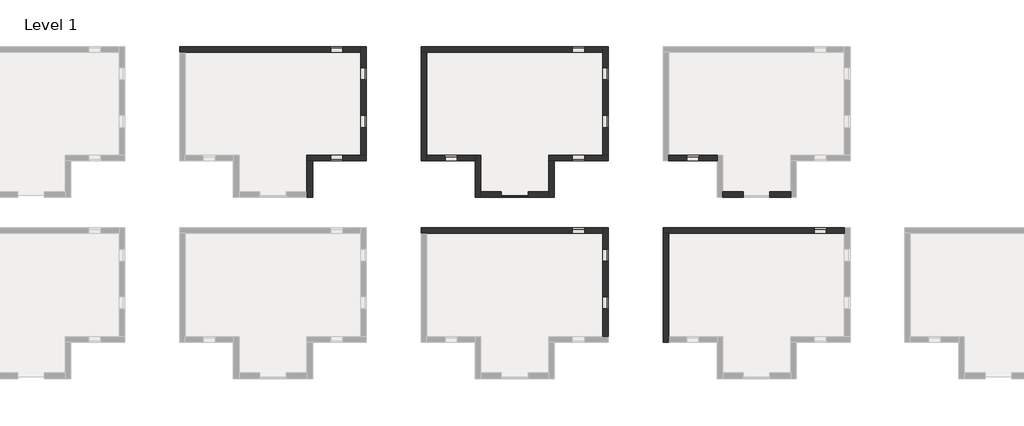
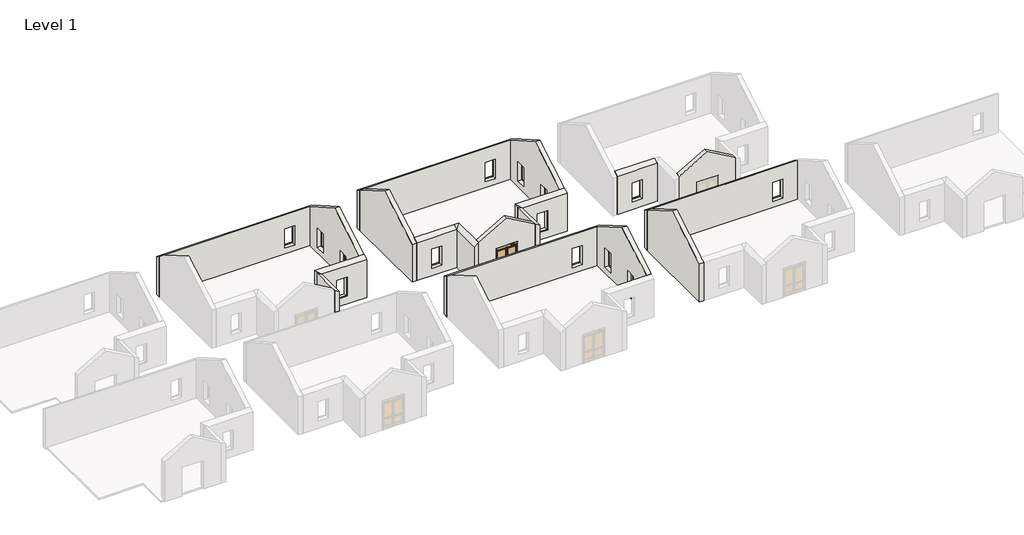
# One storey, part 3 of 4: 18 walls, 1 door.
"""IFC4 building model written with IfcOpenShell, lengths in millimetres."""

from ifc_helpers import new_model, si_unit, frame, origin, place, context, project, spatial, polyline, outline, extrude, faceted_brep, transform, mapped, element, save
from components import non_impact_rated_medium_stile_77e616cb

model = new_model("IFC4")

# Units and contexts
model_context = context("Model", 3, world=origin())
ifc_project = project(units=[si_unit("LENGTHUNIT", "METRE", prefix="MILLI")], contexts=[model_context])

# Site, building, storey
site = spatial("IfcSite", under=ifc_project)
building = spatial("IfcBuilding", under=site)
storey = spatial("IfcBuildingStorey", under=building, Name="Level 1", Elevation=0.0)

# Door
placement = place(None, origin())
non_impact_rated_medium_stile_shape = non_impact_rated_medium_stile_77e616cb(model_context)
element("IfcDoor", 1, ObjectType="Door_Sliding_AssaAbloy_Resilience-R128-FBO-Single : Non Impact Rated - Medium Stile", at=placement, inside=storey, context=model_context, shape_type="MappedRepresentation", body=[
    mapped(non_impact_rated_medium_stile_shape, transform((19060.8760445, 8608.1209288, 0.0), x_axis=(1.0, 0.0, 0.0), y_axis=(0.0, 1.0, 0.0), z_axis=(0.0, 0.0, 1.0))),
])

# Walls
element("IfcWall", 2, ObjectType="Exterior - Block on Mtl. Stud", at=placement, inside=storey, context=model_context, shape_type="Brep", body=[
    faceted_brep([(12963.7667412, 4515.4798849, 4265.5811238), (12963.7667412, 4515.4798849, 0.0), (13128.7667412, 4515.4798849, 0.0), (13128.7667412, 4515.4798849, 150.0), (13423.7667412, 4515.4798849, 150.0), (27963.7667412, 4515.4798849, 150.0), (27963.7667412, 4515.4798849, 4265.5811238), (13423.7667412, 4515.4798849, 4265.5811238), (25463.7667412, 4515.4798849, 2800.0), (26463.7667412, 4515.4798849, 2800.0), (26463.7667412, 4515.4798849, 770.0), (25463.7667412, 4515.4798849, 770.0), (27963.7667412, 4975.4798849, 0.0), (12963.7667412, 4975.4798849, 0.0), (12963.7667412, 4975.4798849, 4000.0), (27963.7667412, 4975.4798849, 4000.0), (26482.7661032, 4975.4798849, 2832.0), (25444.7673792, 4975.4798849, 2832.0), (25444.7673792, 4975.4798849, 800.0), (26482.7661032, 4975.4798849, 800.0), (27963.7667412, 4810.4798849, 0.0), (13128.7667412, 4810.4798849, 0.0), (27963.7667412, 4810.4798849, 150.0), (25463.7667412, 4855.4798849, 2800.0), (26463.7667412, 4855.4798849, 2800.0), (26463.7667412, 4875.4798849, 770.0), (25463.7667412, 4875.4798849, 770.0), (26463.7667412, 4855.4798849, 800.0), (26463.7667412, 4875.4798849, 800.0), (25463.7667412, 4875.4798849, 800.0), (25463.7667412, 4855.4798849, 800.0), (25431.7667412, 4855.4798849, 2832.0), (25431.7667412, 4868.4798849, 2832.0), (25444.7673792, 4868.4798849, 2832.0), (26482.7661032, 4868.4798849, 2832.0), (26495.7667412, 4868.4798849, 2832.0), (26495.7667412, 4855.4798849, 2832.0), (26495.7667412, 4855.4798849, 800.0), (26495.7667412, 4868.4798849, 800.0), (26482.7661032, 4868.4798849, 800.0), (25444.7673792, 4868.4798849, 800.0), (25431.7667412, 4868.4798849, 800.0), (25431.7667412, 4855.4798849, 800.0), (13128.7667412, 4810.4798849, 150.0)], [[[0, 1, 2, 3, 4, 5, 6, 7], [8, 9, 10, 11]], [[12, 13, 14, 15], [16, 17, 18, 19]], [[13, 12, 20, 21, 2, 1]], [[1, 0, 14, 13]], [[12, 15, 6, 5, 22, 20]], [[9, 8, 23, 24]], [[10, 25, 26, 11]], [[9, 24, 27, 28, 25, 10]], [[26, 25, 28, 29]], [[23, 8, 11, 26, 29, 30]], [[31, 32, 33, 17, 16, 34, 35, 36]], [[28, 27, 37, 38, 39, 19, 18, 40, 41, 42, 30, 29]], [[24, 23, 30, 42, 31, 36, 37, 27]], [[36, 35, 38, 37]], [[32, 31, 42, 41]], [[35, 34, 39, 38]], [[34, 16, 19, 39]], [[17, 33, 40, 18]], [[33, 32, 41, 40]], [[3, 43, 22, 5, 4]], [[21, 43, 3, 2]], [[43, 21, 20, 22]], [[0, 7, 6, 15, 14]]]),
])
element("IfcWall", 3, ObjectType="Exterior - Block on Mtl. Stud", at=placement, inside=storey, context=model_context, shape_type="Brep", body=[
    faceted_brep([(27963.7667412, 4975.4798849, 4000.0), (27963.7667412, 4975.4798849, 0.0), (27963.7667412, 4810.4798849, 0.0), (27963.7667412, 4810.4798849, 150.0), (27963.7667412, 4515.4798849, 150.0), (27963.7667412, -4024.5201151, 150.0), (27963.7667412, -4024.5201151, 4265.5811238), (27963.7667412, 245.4798849, 6730.8667733), (27963.7667412, 4515.4798849, 4265.5811238), (27963.7667412, -724.5201151, 2800.0), (27963.7667412, -1724.5201151, 2800.0), (27963.7667412, -1724.5201151, 770.0), (27963.7667412, -724.5201151, 770.0), (27963.7667412, 3215.4798849, 2800.0), (27963.7667412, 2215.4798849, 2800.0), (27963.7667412, 2215.4798849, 770.0), (27963.7667412, 3215.4798849, 770.0), (28423.7667412, -4024.5201151, 0.0), (28423.7667412, 4975.4798849, 0.0), (28423.7667412, 4975.4798849, 4000.0), (28423.7667412, 245.4798849, 6730.8667733), (28423.7667412, -4024.5201151, 4265.5811238), (28423.7667412, -1743.5194771, 2832.0), (28423.7667412, -705.5207531, 2832.0), (28423.7667412, -705.5207531, 800.0), (28423.7667412, -1743.5194771, 800.0), (28423.7667412, 2196.4805229, 2832.0), (28423.7667412, 3234.4792469, 2832.0), (28423.7667412, 3234.4792469, 800.0), (28423.7667412, 2196.4805229, 800.0), (28258.7667412, -4024.5201151, 0.0), (28258.7667412, 4810.4798849, 0.0), (28258.7667412, -4024.5201151, 150.0), (28303.7667412, -724.5201151, 2800.0), (28303.7667412, -1724.5201151, 2800.0), (28323.7667412, -1724.5201151, 770.0), (28323.7667412, -724.5201151, 770.0), (28303.7667412, -1724.5201151, 800.0), (28323.7667412, -1724.5201151, 800.0), (28323.7667412, -724.5201151, 800.0), (28303.7667412, -724.5201151, 800.0), (28303.7667412, -692.5201151, 2832.0), (28316.7667412, -692.5201151, 2832.0), (28316.7667412, -705.5207531, 2832.0), (28316.7667412, -1743.5194771, 2832.0), (28316.7667412, -1756.5201151, 2832.0), (28303.7667412, -1756.5201151, 2832.0), (28303.7667412, -1756.5201151, 800.0), (28316.7667412, -1756.5201151, 800.0), (28316.7667412, -1743.5194771, 800.0), (28316.7667412, -705.5207531, 800.0), (28316.7667412, -692.5201151, 800.0), (28303.7667412, -692.5201151, 800.0), (28303.7667412, 3215.4798849, 2800.0), (28303.7667412, 2215.4798849, 2800.0), (28323.7667412, 2215.4798849, 770.0), (28323.7667412, 3215.4798849, 770.0), (28303.7667412, 2215.4798849, 800.0), (28323.7667412, 2215.4798849, 800.0), (28323.7667412, 3215.4798849, 800.0), (28303.7667412, 3215.4798849, 800.0), (28303.7667412, 3247.4798849, 2832.0), (28316.7667412, 3247.4798849, 2832.0), (28316.7667412, 3234.4792469, 2832.0), (28316.7667412, 2196.4805229, 2832.0), (28316.7667412, 2183.4798849, 2832.0), (28303.7667412, 2183.4798849, 2832.0), (28303.7667412, 2183.4798849, 800.0), (28316.7667412, 2183.4798849, 800.0), (28316.7667412, 2196.4805229, 800.0), (28316.7667412, 3234.4792469, 800.0), (28316.7667412, 3247.4798849, 800.0), (28303.7667412, 3247.4798849, 800.0), (28258.7667412, 4810.4798849, 150.0)], [[[0, 1, 2, 3, 4, 5, 6, 7, 8], [9, 10, 11, 12], [13, 14, 15, 16]], [[17, 18, 19, 20, 21], [22, 23, 24, 25], [26, 27, 28, 29]], [[18, 17, 30, 31, 2, 1]], [[1, 0, 19, 18]], [[17, 21, 6, 5, 32, 30]], [[10, 9, 33, 34]], [[11, 35, 36, 12]], [[10, 34, 37, 38, 35, 11]], [[36, 35, 38, 39]], [[33, 9, 12, 36, 39, 40]], [[41, 42, 43, 23, 22, 44, 45, 46]], [[38, 37, 47, 48, 49, 25, 24, 50, 51, 52, 40, 39]], [[34, 33, 40, 52, 41, 46, 47, 37]], [[46, 45, 48, 47]], [[42, 41, 52, 51]], [[45, 44, 49, 48]], [[44, 22, 25, 49]], [[23, 43, 50, 24]], [[43, 42, 51, 50]], [[14, 13, 53, 54]], [[15, 55, 56, 16]], [[14, 54, 57, 58, 55, 15]], [[56, 55, 58, 59]], [[53, 13, 16, 56, 59, 60]], [[61, 62, 63, 27, 26, 64, 65, 66]], [[58, 57, 67, 68, 69, 29, 28, 70, 71, 72, 60, 59]], [[54, 53, 60, 72, 61, 66, 67, 57]], [[66, 65, 68, 67]], [[62, 61, 72, 71]], [[65, 64, 69, 68]], [[64, 26, 29, 69]], [[27, 63, 70, 28]], [[63, 62, 71, 70]], [[73, 32, 5, 4, 3]], [[73, 31, 30, 32]], [[31, 73, 3, 2]], [[19, 0, 8, 7, 20]], [[6, 21, 20, 7]]]),
])
element("IfcWall", 4, ObjectType="Exterior - Block on Mtl. Stud", at=placement, inside=storey, context=model_context, shape_type="Brep", body=[
    faceted_brep([(32963.7667412, 4515.4798849, 4265.5811238), (32963.7667412, 4515.4798849, 0.0), (33128.7667412, 4515.4798849, 0.0), (33128.7667412, 4515.4798849, 150.0), (33423.7667412, 4515.4798849, 150.0), (47963.7667412, 4515.4798849, 150.0), (47963.7667412, 4515.4798849, 4265.5811238), (33423.7667412, 4515.4798849, 4265.5811238), (45463.7667412, 4515.4798849, 2800.0), (46463.7667412, 4515.4798849, 2800.0), (46463.7667412, 4515.4798849, 770.0), (45463.7667412, 4515.4798849, 770.0), (47963.7667412, 4975.4798849, 0.0), (32963.7667412, 4975.4798849, 0.0), (32963.7667412, 4975.4798849, 4000.0), (47963.7667412, 4975.4798849, 4000.0), (46482.7661032, 4975.4798849, 2832.0), (45444.7673792, 4975.4798849, 2832.0), (45444.7673792, 4975.4798849, 800.0), (46482.7661032, 4975.4798849, 800.0), (47963.7667412, 4810.4798849, 0.0), (33128.7667412, 4810.4798849, 0.0), (47963.7667412, 4810.4798849, 150.0), (45463.7667412, 4855.4798849, 2800.0), (46463.7667412, 4855.4798849, 2800.0), (46463.7667412, 4875.4798849, 770.0), (45463.7667412, 4875.4798849, 770.0), (46463.7667412, 4855.4798849, 800.0), (46463.7667412, 4875.4798849, 800.0), (45463.7667412, 4875.4798849, 800.0), (45463.7667412, 4855.4798849, 800.0), (45431.7667412, 4855.4798849, 2832.0), (45431.7667412, 4868.4798849, 2832.0), (45444.7673792, 4868.4798849, 2832.0), (46482.7661032, 4868.4798849, 2832.0), (46495.7667412, 4868.4798849, 2832.0), (46495.7667412, 4855.4798849, 2832.0), (46495.7667412, 4855.4798849, 800.0), (46495.7667412, 4868.4798849, 800.0), (46482.7661032, 4868.4798849, 800.0), (45444.7673792, 4868.4798849, 800.0), (45431.7667412, 4868.4798849, 800.0), (45431.7667412, 4855.4798849, 800.0), (33128.7667412, 4810.4798849, 150.0)], [[[0, 1, 2, 3, 4, 5, 6, 7], [8, 9, 10, 11]], [[12, 13, 14, 15], [16, 17, 18, 19]], [[13, 12, 20, 21, 2, 1]], [[1, 0, 14, 13]], [[12, 15, 6, 5, 22, 20]], [[9, 8, 23, 24]], [[10, 25, 26, 11]], [[9, 24, 27, 28, 25, 10]], [[26, 25, 28, 29]], [[23, 8, 11, 26, 29, 30]], [[31, 32, 33, 17, 16, 34, 35, 36]], [[28, 27, 37, 38, 39, 19, 18, 40, 41, 42, 30, 29]], [[24, 23, 30, 42, 31, 36, 37, 27]], [[36, 35, 38, 37]], [[32, 31, 42, 41]], [[35, 34, 39, 38]], [[34, 16, 19, 39]], [[17, 33, 40, 18]], [[33, 32, 41, 40]], [[3, 43, 22, 5, 4]], [[21, 43, 3, 2]], [[43, 21, 20, 22]], [[0, 7, 6, 15, 14]]]),
])
element("IfcWall", 5, ObjectType="Exterior - Block on Mtl. Stud", at=placement, inside=storey, context=model_context, shape_type="Brep", body=[
    faceted_brep([(33423.7667412, -4484.5201151, 4000.0), (33423.7667412, -4484.5201151, 0.0), (33423.7667412, -4319.5201151, 0.0), (33423.7667412, -4319.5201151, 150.0), (33423.7667412, 4515.4798849, 150.0), (33423.7667412, 4515.4798849, 4265.5811238), (33423.7667412, 245.4798849, 6730.8667733), (33423.7667412, -4024.5201151, 4265.5811238), (32963.7667412, 4515.4798849, 0.0), (32963.7667412, -4484.5201151, 0.0), (32963.7667412, -4484.5201151, 4000.0), (32963.7667412, 245.4798849, 6730.8667733), (32963.7667412, 4515.4798849, 4265.5811238), (33128.7667412, 4515.4798849, 0.0), (33128.7667412, -4319.5201151, 0.0), (33128.7667412, 4515.4798849, 150.0), (33128.7667412, -4319.5201151, 150.0)], [[[0, 1, 2, 3, 4, 5, 6, 7]], [[8, 9, 10, 11, 12]], [[9, 8, 13, 14, 2, 1]], [[1, 0, 10, 9]], [[8, 12, 5, 4, 15, 13]], [[3, 16, 15, 4]], [[16, 14, 13, 15]], [[14, 16, 3, 2]], [[10, 0, 7, 6, 11]], [[5, 12, 11, 6]]]),
])
element("IfcWall", 6, ObjectType="Exterior - Block on Mtl. Stud", at=placement, inside=storey, context=model_context, shape_type="Brep", body=[
    faceted_brep([(-7036.2332588, 19515.4798849, 4265.5811238), (-7036.2332588, 19515.4798849, 0.0), (-6871.2332588, 19515.4798849, 0.0), (-6871.2332588, 19515.4798849, 150.0), (-6576.2332588, 19515.4798849, 150.0), (7963.7667412, 19515.4798849, 150.0), (7963.7667412, 19515.4798849, 4265.5811238), (-6576.2332588, 19515.4798849, 4265.5811238), (5463.7667412, 19515.4798849, 2800.0), (6463.7667412, 19515.4798849, 2800.0), (6463.7667412, 19515.4798849, 770.0), (5463.7667412, 19515.4798849, 770.0), (7963.7667412, 19975.4798849, 0.0), (-7036.2332588, 19975.4798849, 0.0), (-7036.2332588, 19975.4798849, 4000.0), (7963.7667412, 19975.4798849, 4000.0), (6482.7661032, 19975.4798849, 2832.0), (5444.7673792, 19975.4798849, 2832.0), (5444.7673792, 19975.4798849, 800.0), (6482.7661032, 19975.4798849, 800.0), (7963.7667412, 19810.4798849, 0.0), (-6871.2332588, 19810.4798849, 0.0), (7963.7667412, 19810.4798849, 150.0), (5463.7667412, 19855.4798849, 2800.0), (6463.7667412, 19855.4798849, 2800.0), (6463.7667412, 19875.4798849, 770.0), (5463.7667412, 19875.4798849, 770.0), (6463.7667412, 19855.4798849, 800.0), (6463.7667412, 19875.4798849, 800.0), (5463.7667412, 19875.4798849, 800.0), (5463.7667412, 19855.4798849, 800.0), (5431.7667412, 19855.4798849, 2832.0), (5431.7667412, 19868.4798849, 2832.0), (5444.7673792, 19868.4798849, 2832.0), (6482.7661032, 19868.4798849, 2832.0), (6495.7667412, 19868.4798849, 2832.0), (6495.7667412, 19855.4798849, 2832.0), (6495.7667412, 19855.4798849, 800.0), (6495.7667412, 19868.4798849, 800.0), (6482.7661032, 19868.4798849, 800.0), (5444.7673792, 19868.4798849, 800.0), (5431.7667412, 19868.4798849, 800.0), (5431.7667412, 19855.4798849, 800.0), (-6871.2332588, 19810.4798849, 150.0)], [[[0, 1, 2, 3, 4, 5, 6, 7], [8, 9, 10, 11]], [[12, 13, 14, 15], [16, 17, 18, 19]], [[13, 12, 20, 21, 2, 1]], [[1, 0, 14, 13]], [[12, 15, 6, 5, 22, 20]], [[9, 8, 23, 24]], [[10, 25, 26, 11]], [[9, 24, 27, 28, 25, 10]], [[26, 25, 28, 29]], [[23, 8, 11, 26, 29, 30]], [[31, 32, 33, 17, 16, 34, 35, 36]], [[28, 27, 37, 38, 39, 19, 18, 40, 41, 42, 30, 29]], [[24, 23, 30, 42, 31, 36, 37, 27]], [[36, 35, 38, 37]], [[32, 31, 42, 41]], [[35, 34, 39, 38]], [[34, 16, 19, 39]], [[17, 33, 40, 18]], [[33, 32, 41, 40]], [[3, 43, 22, 5, 4]], [[21, 43, 3, 2]], [[43, 21, 20, 22]], [[0, 7, 6, 15, 14]]]),
])
element("IfcWall", 7, ObjectType="Exterior - Block on Mtl. Stud", at=placement, inside=storey, context=model_context, shape_type="Brep", body=[
    faceted_brep([(8423.7667412, 10975.4798849, 4265.5811238), (8423.7667412, 10975.4798849, 0.0), (8258.7667412, 10975.4798849, 0.0), (8258.7667412, 10975.4798849, 150.0), (7963.7667412, 10975.4798849, 150.0), (3503.7667412, 10975.4798849, 150.0), (3503.7667412, 10975.4798849, 4265.5811238), (7963.7667412, 10975.4798849, 4265.5811238), (6463.7667412, 10975.4798849, 2800.0), (5463.7667412, 10975.4798849, 2800.0), (5463.7667412, 10975.4798849, 770.0), (6463.7667412, 10975.4798849, 770.0), (8423.7667412, 10515.4798849, 0.0), (8423.7667412, 10515.4798849, 4000.0), (3963.7667412, 10515.4798849, 4000.0), (3503.7667412, 10515.4798849, 4265.5811238), (3503.7667412, 10515.4798849, 150.0), (3798.7667412, 10515.4798849, 150.0), (3798.7667412, 10515.4798849, 0.0), (3963.7667412, 10515.4798849, 0.0), (5444.7673792, 10515.4798849, 2832.0), (6482.7661032, 10515.4798849, 2832.0), (6482.7661032, 10515.4798849, 800.0), (5444.7673792, 10515.4798849, 800.0), (3798.7667412, 10680.4798849, 0.0), (8258.7667412, 10680.4798849, 0.0), (6463.7667412, 10635.4798849, 2800.0), (5463.7667412, 10635.4798849, 2800.0), (5463.7667412, 10615.4798849, 770.0), (6463.7667412, 10615.4798849, 770.0), (5463.7667412, 10635.4798849, 800.0), (5463.7667412, 10615.4798849, 800.0), (6463.7667412, 10615.4798849, 800.0), (6463.7667412, 10635.4798849, 800.0), (6495.7667412, 10635.4798849, 2832.0), (6495.7667412, 10622.4798849, 2832.0), (6482.7661032, 10622.4798849, 2832.0), (5444.7673792, 10622.4798849, 2832.0), (5431.7667412, 10622.4798849, 2832.0), (5431.7667412, 10635.4798849, 2832.0), (5431.7667412, 10635.4798849, 800.0), (5431.7667412, 10622.4798849, 800.0), (5444.7673792, 10622.4798849, 800.0), (6482.7661032, 10622.4798849, 800.0), (6495.7667412, 10622.4798849, 800.0), (6495.7667412, 10635.4798849, 800.0), (8258.7667412, 10680.4798849, 150.0), (3798.7667412, 10680.4798849, 150.0)], [[[0, 1, 2, 3, 4, 5, 6, 7], [8, 9, 10, 11]], [[12, 13, 14, 15, 16, 17, 18, 19], [20, 21, 22, 23]], [[1, 12, 19, 18, 24, 25, 2]], [[1, 0, 13, 12]], [[9, 8, 26, 27]], [[10, 28, 29, 11]], [[9, 27, 30, 31, 28, 10]], [[29, 28, 31, 32]], [[26, 8, 11, 29, 32, 33]], [[34, 35, 36, 21, 20, 37, 38, 39]], [[31, 30, 40, 41, 42, 23, 22, 43, 44, 45, 33, 32]], [[27, 26, 33, 45, 34, 39, 40, 30]], [[39, 38, 41, 40]], [[35, 34, 45, 44]], [[38, 37, 42, 41]], [[37, 20, 23, 42]], [[21, 36, 43, 22]], [[36, 35, 44, 43]], [[15, 6, 5, 16]], [[46, 47, 17, 16, 5, 4, 3]], [[25, 46, 3, 2]], [[47, 46, 25, 24]], [[47, 24, 18, 17]], [[13, 0, 7, 6, 14]], [[6, 15, 14]]]),
])
element("IfcWall", 8, ObjectType="Exterior - Block on Mtl. Stud", at=placement, inside=storey, context=model_context, shape_type="Brep", body=[
    faceted_brep([(7963.7667412, 19975.4798849, 4000.0), (7963.7667412, 19975.4798849, 0.0), (7963.7667412, 19810.4798849, 0.0), (7963.7667412, 19810.4798849, 150.0), (7963.7667412, 19515.4798849, 150.0), (7963.7667412, 10975.4798849, 150.0), (7963.7667412, 10975.4798849, 4265.5811238), (7963.7667412, 15245.4798849, 6730.8667733), (7963.7667412, 19515.4798849, 4265.5811238), (7963.7667412, 14275.4798849, 2800.0), (7963.7667412, 13275.4798849, 2800.0), (7963.7667412, 13275.4798849, 770.0), (7963.7667412, 14275.4798849, 770.0), (7963.7667412, 18215.4798849, 2800.0), (7963.7667412, 17215.4798849, 2800.0), (7963.7667412, 17215.4798849, 770.0), (7963.7667412, 18215.4798849, 770.0), (8423.7667412, 10975.4798849, 0.0), (8423.7667412, 19975.4798849, 0.0), (8423.7667412, 19975.4798849, 4000.0), (8423.7667412, 15245.4798849, 6730.8667733), (8423.7667412, 10975.4798849, 4265.5811238), (8423.7667412, 13256.4805229, 2832.0), (8423.7667412, 14294.4792469, 2832.0), (8423.7667412, 14294.4792469, 800.0), (8423.7667412, 13256.4805229, 800.0), (8423.7667412, 17196.4805229, 2832.0), (8423.7667412, 18234.4792469, 2832.0), (8423.7667412, 18234.4792469, 800.0), (8423.7667412, 17196.4805229, 800.0), (8258.7667412, 10975.4798849, 0.0), (8258.7667412, 19810.4798849, 0.0), (8258.7667412, 10975.4798849, 150.0), (8303.7667412, 14275.4798849, 2800.0), (8303.7667412, 13275.4798849, 2800.0), (8323.7667412, 13275.4798849, 770.0), (8323.7667412, 14275.4798849, 770.0), (8303.7667412, 13275.4798849, 800.0), (8323.7667412, 13275.4798849, 800.0), (8323.7667412, 14275.4798849, 800.0), (8303.7667412, 14275.4798849, 800.0), (8303.7667412, 14307.4798849, 2832.0), (8316.7667412, 14307.4798849, 2832.0), (8316.7667412, 14294.4792469, 2832.0), (8316.7667412, 13256.4805229, 2832.0), (8316.7667412, 13243.4798849, 2832.0), (8303.7667412, 13243.4798849, 2832.0), (8303.7667412, 13243.4798849, 800.0), (8316.7667412, 13243.4798849, 800.0), (8316.7667412, 13256.4805229, 800.0), (8316.7667412, 14294.4792469, 800.0), (8316.7667412, 14307.4798849, 800.0), (8303.7667412, 14307.4798849, 800.0), (8303.7667412, 18215.4798849, 2800.0), (8303.7667412, 17215.4798849, 2800.0), (8323.7667412, 17215.4798849, 770.0), (8323.7667412, 18215.4798849, 770.0), (8303.7667412, 17215.4798849, 800.0), (8323.7667412, 17215.4798849, 800.0), (8323.7667412, 18215.4798849, 800.0), (8303.7667412, 18215.4798849, 800.0), (8303.7667412, 18247.4798849, 2832.0), (8316.7667412, 18247.4798849, 2832.0), (8316.7667412, 18234.4792469, 2832.0), (8316.7667412, 17196.4805229, 2832.0), (8316.7667412, 17183.4798849, 2832.0), (8303.7667412, 17183.4798849, 2832.0), (8303.7667412, 17183.4798849, 800.0), (8316.7667412, 17183.4798849, 800.0), (8316.7667412, 17196.4805229, 800.0), (8316.7667412, 18234.4792469, 800.0), (8316.7667412, 18247.4798849, 800.0), (8303.7667412, 18247.4798849, 800.0), (8258.7667412, 19810.4798849, 150.0)], [[[0, 1, 2, 3, 4, 5, 6, 7, 8], [9, 10, 11, 12], [13, 14, 15, 16]], [[17, 18, 19, 20, 21], [22, 23, 24, 25], [26, 27, 28, 29]], [[18, 17, 30, 31, 2, 1]], [[1, 0, 19, 18]], [[17, 21, 6, 5, 32, 30]], [[10, 9, 33, 34]], [[11, 35, 36, 12]], [[10, 34, 37, 38, 35, 11]], [[36, 35, 38, 39]], [[33, 9, 12, 36, 39, 40]], [[41, 42, 43, 23, 22, 44, 45, 46]], [[38, 37, 47, 48, 49, 25, 24, 50, 51, 52, 40, 39]], [[34, 33, 40, 52, 41, 46, 47, 37]], [[46, 45, 48, 47]], [[42, 41, 52, 51]], [[45, 44, 49, 48]], [[44, 22, 25, 49]], [[23, 43, 50, 24]], [[43, 42, 51, 50]], [[14, 13, 53, 54]], [[15, 55, 56, 16]], [[14, 54, 57, 58, 55, 15]], [[56, 55, 58, 59]], [[53, 13, 16, 56, 59, 60]], [[61, 62, 63, 27, 26, 64, 65, 66]], [[58, 57, 67, 68, 69, 29, 28, 70, 71, 72, 60, 59]], [[54, 53, 60, 72, 61, 66, 67, 57]], [[66, 65, 68, 67]], [[62, 61, 72, 71]], [[65, 64, 69, 68]], [[64, 26, 29, 69]], [[27, 63, 70, 28]], [[63, 62, 71, 70]], [[73, 32, 5, 4, 3]], [[73, 31, 30, 32]], [[31, 73, 3, 2]], [[19, 0, 8, 7, 20]], [[6, 21, 20, 7]]]),
])
element("IfcWall", 9, ObjectType="Exterior - Block on Mtl. Stud", at=placement, inside=storey, context=model_context, shape_type="Brep", body=[
    faceted_brep([(3503.7667412, 10515.4798849, 0.0), (3503.7667412, 7975.4798849, 0.0), (3503.7667412, 7515.4798849, 0.0), (3503.7667412, 7515.4798849, 4265.5811238), (3503.7667412, 7975.4798849, 4265.5811238), (3503.7667412, 10515.4798849, 4265.5811238), (3963.7667412, 10515.4798849, 0.0), (3963.7667412, 10515.4798849, 4000.0), (3963.7667412, 7515.4798849, 4000.0), (3963.7667412, 7515.4798849, 0.0)], [[[0, 1, 2, 3, 4, 5]], [[6, 7, 8, 9]], [[2, 1, 0, 6, 9]], [[3, 2, 9, 8]], [[0, 5, 7, 6]], [[5, 4, 3, 8, 7]]]),
])
element("IfcWall", 10, ObjectType="Exterior - Block on Mtl. Stud", at=placement, inside=storey, context=model_context, shape_type="Brep", body=[
    faceted_brep([(12963.7667412, 19515.4798849, 4265.5811238), (12963.7667412, 19515.4798849, 0.0), (13128.7667412, 19515.4798849, 0.0), (13128.7667412, 19515.4798849, 150.0), (13423.7667412, 19515.4798849, 150.0), (27963.7667412, 19515.4798849, 150.0), (27963.7667412, 19515.4798849, 4265.5811238), (13423.7667412, 19515.4798849, 4265.5811238), (25463.7667412, 19515.4798849, 2800.0), (26463.7667412, 19515.4798849, 2800.0), (26463.7667412, 19515.4798849, 770.0), (25463.7667412, 19515.4798849, 770.0), (27963.7667412, 19975.4798849, 0.0), (12963.7667412, 19975.4798849, 0.0), (12963.7667412, 19975.4798849, 4000.0), (27963.7667412, 19975.4798849, 4000.0), (26482.7661032, 19975.4798849, 2832.0), (25444.7673792, 19975.4798849, 2832.0), (25444.7673792, 19975.4798849, 800.0), (26482.7661032, 19975.4798849, 800.0), (27963.7667412, 19810.4798849, 0.0), (13128.7667412, 19810.4798849, 0.0), (27963.7667412, 19810.4798849, 150.0), (25463.7667412, 19855.4798849, 2800.0), (26463.7667412, 19855.4798849, 2800.0), (26463.7667412, 19875.4798849, 770.0), (25463.7667412, 19875.4798849, 770.0), (26463.7667412, 19855.4798849, 800.0), (26463.7667412, 19875.4798849, 800.0), (25463.7667412, 19875.4798849, 800.0), (25463.7667412, 19855.4798849, 800.0), (25431.7667412, 19855.4798849, 2832.0), (25431.7667412, 19868.4798849, 2832.0), (25444.7673792, 19868.4798849, 2832.0), (26482.7661032, 19868.4798849, 2832.0), (26495.7667412, 19868.4798849, 2832.0), (26495.7667412, 19855.4798849, 2832.0), (26495.7667412, 19855.4798849, 800.0), (26495.7667412, 19868.4798849, 800.0), (26482.7661032, 19868.4798849, 800.0), (25444.7673792, 19868.4798849, 800.0), (25431.7667412, 19868.4798849, 800.0), (25431.7667412, 19855.4798849, 800.0), (13128.7667412, 19810.4798849, 150.0)], [[[0, 1, 2, 3, 4, 5, 6, 7], [8, 9, 10, 11]], [[12, 13, 14, 15], [16, 17, 18, 19]], [[13, 12, 20, 21, 2, 1]], [[1, 0, 14, 13]], [[12, 15, 6, 5, 22, 20]], [[9, 8, 23, 24]], [[10, 25, 26, 11]], [[9, 24, 27, 28, 25, 10]], [[26, 25, 28, 29]], [[23, 8, 11, 26, 29, 30]], [[31, 32, 33, 17, 16, 34, 35, 36]], [[28, 27, 37, 38, 39, 19, 18, 40, 41, 42, 30, 29]], [[24, 23, 30, 42, 31, 36, 37, 27]], [[36, 35, 38, 37]], [[32, 31, 42, 41]], [[35, 34, 39, 38]], [[34, 16, 19, 39]], [[17, 33, 40, 18]], [[33, 32, 41, 40]], [[3, 43, 22, 5, 4]], [[21, 43, 3, 2]], [[43, 21, 20, 22]], [[0, 7, 6, 15, 14]]]),
])
element("IfcWall", 11, ObjectType="Exterior - Block on Mtl. Stud", at=placement, inside=storey, context=model_context, shape_type="Brep", body=[
    faceted_brep([(13423.7667412, 10515.4798849, 4000.0), (13423.7667412, 10515.4798849, 0.0), (13423.7667412, 10680.4798849, 0.0), (13423.7667412, 10680.4798849, 150.0), (13423.7667412, 19515.4798849, 150.0), (13423.7667412, 19515.4798849, 4265.5811238), (13423.7667412, 15245.4798849, 6730.8667733), (13423.7667412, 10975.4798849, 4265.5811238), (12963.7667412, 19515.4798849, 0.0), (12963.7667412, 10515.4798849, 0.0), (12963.7667412, 10515.4798849, 4000.0), (12963.7667412, 15245.4798849, 6730.8667733), (12963.7667412, 19515.4798849, 4265.5811238), (13128.7667412, 19515.4798849, 0.0), (13128.7667412, 10680.4798849, 0.0), (13128.7667412, 19515.4798849, 150.0), (13128.7667412, 10680.4798849, 150.0)], [[[0, 1, 2, 3, 4, 5, 6, 7]], [[8, 9, 10, 11, 12]], [[9, 8, 13, 14, 2, 1]], [[1, 0, 10, 9]], [[8, 12, 5, 4, 15, 13]], [[3, 16, 15, 4]], [[16, 14, 13, 15]], [[14, 16, 3, 2]], [[10, 0, 7, 6, 11]], [[5, 12, 11, 6]]]),
])
element("IfcWall", 12, ObjectType="Exterior - Block on Mtl. Stud", at=placement, inside=storey, context=model_context, shape_type="Brep", body=[
    faceted_brep([(28423.7667412, 10975.4798849, 4265.5811238), (28423.7667412, 10975.4798849, 0.0), (28258.7667412, 10975.4798849, 0.0), (28258.7667412, 10975.4798849, 150.0), (27963.7667412, 10975.4798849, 150.0), (23503.7667412, 10975.4798849, 150.0), (23503.7667412, 10975.4798849, 4265.5811238), (27963.7667412, 10975.4798849, 4265.5811238), (26463.7667412, 10975.4798849, 2800.0), (25463.7667412, 10975.4798849, 2800.0), (25463.7667412, 10975.4798849, 770.0), (26463.7667412, 10975.4798849, 770.0), (28423.7667412, 10515.4798849, 0.0), (28423.7667412, 10515.4798849, 4000.0), (23963.7667412, 10515.4798849, 4000.0), (23503.7667412, 10515.4798849, 4265.5811238), (23503.7667412, 10515.4798849, 150.0), (23798.7667412, 10515.4798849, 150.0), (23798.7667412, 10515.4798849, 0.0), (23963.7667412, 10515.4798849, 0.0), (25444.7673792, 10515.4798849, 2832.0), (26482.7661032, 10515.4798849, 2832.0), (26482.7661032, 10515.4798849, 800.0), (25444.7673792, 10515.4798849, 800.0), (23798.7667412, 10680.4798849, 0.0), (28258.7667412, 10680.4798849, 0.0), (26463.7667412, 10635.4798849, 2800.0), (25463.7667412, 10635.4798849, 2800.0), (25463.7667412, 10615.4798849, 770.0), (26463.7667412, 10615.4798849, 770.0), (25463.7667412, 10635.4798849, 800.0), (25463.7667412, 10615.4798849, 800.0), (26463.7667412, 10615.4798849, 800.0), (26463.7667412, 10635.4798849, 800.0), (26495.7667412, 10635.4798849, 2832.0), (26495.7667412, 10622.4798849, 2832.0), (26482.7661032, 10622.4798849, 2832.0), (25444.7673792, 10622.4798849, 2832.0), (25431.7667412, 10622.4798849, 2832.0), (25431.7667412, 10635.4798849, 2832.0), (25431.7667412, 10635.4798849, 800.0), (25431.7667412, 10622.4798849, 800.0), (25444.7673792, 10622.4798849, 800.0), (26482.7661032, 10622.4798849, 800.0), (26495.7667412, 10622.4798849, 800.0), (26495.7667412, 10635.4798849, 800.0), (28258.7667412, 10680.4798849, 150.0), (23798.7667412, 10680.4798849, 150.0)], [[[0, 1, 2, 3, 4, 5, 6, 7], [8, 9, 10, 11]], [[12, 13, 14, 15, 16, 17, 18, 19], [20, 21, 22, 23]], [[1, 12, 19, 18, 24, 25, 2]], [[1, 0, 13, 12]], [[9, 8, 26, 27]], [[10, 28, 29, 11]], [[9, 27, 30, 31, 28, 10]], [[29, 28, 31, 32]], [[26, 8, 11, 29, 32, 33]], [[34, 35, 36, 21, 20, 37, 38, 39]], [[31, 30, 40, 41, 42, 23, 22, 43, 44, 45, 33, 32]], [[27, 26, 33, 45, 34, 39, 40, 30]], [[39, 38, 41, 40]], [[35, 34, 45, 44]], [[38, 37, 42, 41]], [[37, 20, 23, 42]], [[21, 36, 43, 22]], [[36, 35, 44, 43]], [[15, 6, 5, 16]], [[46, 47, 17, 16, 5, 4, 3]], [[25, 46, 3, 2]], [[47, 46, 25, 24]], [[47, 24, 18, 17]], [[13, 0, 7, 6, 14]], [[6, 15, 14]]]),
])
element("IfcWall", 13, ObjectType="Exterior - Block on Mtl. Stud", at=placement, inside=storey, context=model_context, shape_type="Brep", body=[
    faceted_brep([(27963.7667412, 19975.4798849, 4000.0), (27963.7667412, 19975.4798849, 0.0), (27963.7667412, 19810.4798849, 0.0), (27963.7667412, 19810.4798849, 150.0), (27963.7667412, 19515.4798849, 150.0), (27963.7667412, 10975.4798849, 150.0), (27963.7667412, 10975.4798849, 4265.5811238), (27963.7667412, 15245.4798849, 6730.8667733), (27963.7667412, 19515.4798849, 4265.5811238), (27963.7667412, 14275.4798849, 2800.0), (27963.7667412, 13275.4798849, 2800.0), (27963.7667412, 13275.4798849, 770.0), (27963.7667412, 14275.4798849, 770.0), (27963.7667412, 18215.4798849, 2800.0), (27963.7667412, 17215.4798849, 2800.0), (27963.7667412, 17215.4798849, 770.0), (27963.7667412, 18215.4798849, 770.0), (28423.7667412, 10975.4798849, 0.0), (28423.7667412, 19975.4798849, 0.0), (28423.7667412, 19975.4798849, 4000.0), (28423.7667412, 15245.4798849, 6730.8667733), (28423.7667412, 10975.4798849, 4265.5811238), (28423.7667412, 13256.4805229, 2832.0), (28423.7667412, 14294.4792469, 2832.0), (28423.7667412, 14294.4792469, 800.0), (28423.7667412, 13256.4805229, 800.0), (28423.7667412, 17196.4805229, 2832.0), (28423.7667412, 18234.4792469, 2832.0), (28423.7667412, 18234.4792469, 800.0), (28423.7667412, 17196.4805229, 800.0), (28258.7667412, 10975.4798849, 0.0), (28258.7667412, 19810.4798849, 0.0), (28258.7667412, 10975.4798849, 150.0), (28303.7667412, 14275.4798849, 2800.0), (28303.7667412, 13275.4798849, 2800.0), (28323.7667412, 13275.4798849, 770.0), (28323.7667412, 14275.4798849, 770.0), (28303.7667412, 13275.4798849, 800.0), (28323.7667412, 13275.4798849, 800.0), (28323.7667412, 14275.4798849, 800.0), (28303.7667412, 14275.4798849, 800.0), (28303.7667412, 14307.4798849, 2832.0), (28316.7667412, 14307.4798849, 2832.0), (28316.7667412, 14294.4792469, 2832.0), (28316.7667412, 13256.4805229, 2832.0), (28316.7667412, 13243.4798849, 2832.0), (28303.7667412, 13243.4798849, 2832.0), (28303.7667412, 13243.4798849, 800.0), (28316.7667412, 13243.4798849, 800.0), (28316.7667412, 13256.4805229, 800.0), (28316.7667412, 14294.4792469, 800.0), (28316.7667412, 14307.4798849, 800.0), (28303.7667412, 14307.4798849, 800.0), (28303.7667412, 18215.4798849, 2800.0), (28303.7667412, 17215.4798849, 2800.0), (28323.7667412, 17215.4798849, 770.0), (28323.7667412, 18215.4798849, 770.0), (28303.7667412, 17215.4798849, 800.0), (28323.7667412, 17215.4798849, 800.0), (28323.7667412, 18215.4798849, 800.0), (28303.7667412, 18215.4798849, 800.0), (28303.7667412, 18247.4798849, 2832.0), (28316.7667412, 18247.4798849, 2832.0), (28316.7667412, 18234.4792469, 2832.0), (28316.7667412, 17196.4805229, 2832.0), (28316.7667412, 17183.4798849, 2832.0), (28303.7667412, 17183.4798849, 2832.0), (28303.7667412, 17183.4798849, 800.0), (28316.7667412, 17183.4798849, 800.0), (28316.7667412, 17196.4805229, 800.0), (28316.7667412, 18234.4792469, 800.0), (28316.7667412, 18247.4798849, 800.0), (28303.7667412, 18247.4798849, 800.0), (28258.7667412, 19810.4798849, 150.0)], [[[0, 1, 2, 3, 4, 5, 6, 7, 8], [9, 10, 11, 12], [13, 14, 15, 16]], [[17, 18, 19, 20, 21], [22, 23, 24, 25], [26, 27, 28, 29]], [[18, 17, 30, 31, 2, 1]], [[1, 0, 19, 18]], [[17, 21, 6, 5, 32, 30]], [[10, 9, 33, 34]], [[11, 35, 36, 12]], [[10, 34, 37, 38, 35, 11]], [[36, 35, 38, 39]], [[33, 9, 12, 36, 39, 40]], [[41, 42, 43, 23, 22, 44, 45, 46]], [[38, 37, 47, 48, 49, 25, 24, 50, 51, 52, 40, 39]], [[34, 33, 40, 52, 41, 46, 47, 37]], [[46, 45, 48, 47]], [[42, 41, 52, 51]], [[45, 44, 49, 48]], [[44, 22, 25, 49]], [[23, 43, 50, 24]], [[43, 42, 51, 50]], [[14, 13, 53, 54]], [[15, 55, 56, 16]], [[14, 54, 57, 58, 55, 15]], [[56, 55, 58, 59]], [[53, 13, 16, 56, 59, 60]], [[61, 62, 63, 27, 26, 64, 65, 66]], [[58, 57, 67, 68, 69, 29, 28, 70, 71, 72, 60, 59]], [[54, 53, 60, 72, 61, 66, 67, 57]], [[66, 65, 68, 67]], [[62, 61, 72, 71]], [[65, 64, 69, 68]], [[64, 26, 29, 69]], [[27, 63, 70, 28]], [[63, 62, 71, 70]], [[73, 32, 5, 4, 3]], [[73, 31, 30, 32]], [[31, 73, 3, 2]], [[19, 0, 8, 7, 20]], [[6, 21, 20, 7]]]),
])
element("IfcWall", 14, ObjectType="Exterior - Block on Mtl. Stud", at=placement, inside=storey, context=model_context, shape_type="Brep", body=[
    faceted_brep([(17423.7667412, 10975.4798849, 0.0), (17423.7667412, 10515.4798849, 0.0), (17423.7667412, 7515.4798849, 0.0), (17423.7667412, 7515.4798849, 4000.0), (17423.7667412, 10515.4798849, 4000.0), (17423.7667412, 10975.4798849, 4265.5811238), (17883.7667412, 10975.4798849, 0.0), (17883.7667412, 10975.4798849, 4265.5811238), (17883.7667412, 7975.4798849, 4265.5811238), (17883.7667412, 7515.4798849, 4265.5811238), (17883.7667412, 7515.4798849, 0.0), (17883.7667412, 7975.4798849, 0.0)], [[[0, 1, 2, 3, 4, 5]], [[6, 7, 8, 9, 10, 11]], [[2, 1, 0, 6, 11, 10]], [[3, 2, 10, 9]], [[0, 5, 7, 6]], [[5, 4, 7]], [[4, 3, 9, 8, 7]]]),
])
element("IfcWall", 15, ObjectType="Exterior - Block on Mtl. Stud", at=placement, inside=storey, context=model_context, shape_type="Brep", body=[
    faceted_brep([(23503.7667412, 10515.4798849, 0.0), (23503.7667412, 7975.4798849, 0.0), (23503.7667412, 7515.4798849, 0.0), (23503.7667412, 7515.4798849, 4265.5811238), (23503.7667412, 7975.4798849, 4265.5811238), (23503.7667412, 10515.4798849, 4265.5811238), (23963.7667412, 10515.4798849, 0.0), (23963.7667412, 10515.4798849, 4000.0), (23963.7667412, 7515.4798849, 4000.0), (23963.7667412, 7515.4798849, 0.0)], [[[0, 1, 2, 3, 4, 5]], [[6, 7, 8, 9]], [[2, 1, 0, 6, 9]], [[3, 2, 9, 8]], [[0, 5, 7, 6]], [[5, 4, 3, 8, 7]]]),
])
element("IfcWall", 16, ObjectType="Exterior - Block on Mtl. Stud", at=placement, inside=storey, context=model_context, shape_type="SweptSolid", body=[
    extrude(outline(polyline([(4265.5811238, 17883.7667412), (0.0, 17883.7667412), (0.0, 19595.2167412), (3054.35, 19595.2167412), (3054.35, 21792.3167412), (0.0, 21792.3167412), (0.0, 23503.7667412), (4265.5811238, 23503.7667412), (5887.9353802, 20693.7667412), (4265.5811238, 17883.7667412)])), frame((0.0, 7515.4798849, 0.0), z_axis=(0.0, 1.0, 0.0), x_axis=(0.0, 0.0, 1.0)), (0.0, 0.0, 1.0), 460.0),
])
element("IfcWall", 17, ObjectType="Exterior - Block on Mtl. Stud", at=placement, inside=storey, context=model_context, shape_type="Brep", body=[
    faceted_brep([(17423.7667412, 10975.4798849, 0.0), (13423.7667412, 10975.4798849, 0.0), (13423.7667412, 10975.4798849, 4265.5811238), (17423.7667412, 10975.4798849, 4265.5811238), (15942.7661032, 10975.4798849, 2832.0), (14904.7673792, 10975.4798849, 2832.0), (14904.7673792, 10975.4798849, 800.0), (15942.7661032, 10975.4798849, 800.0), (17423.7667412, 10515.4798849, 0.0), (17423.7667412, 10515.4798849, 4000.0), (13423.7667412, 10515.4798849, 4000.0), (13423.7667412, 10515.4798849, 0.0), (14923.7667412, 10515.4798849, 2800.0), (15923.7667412, 10515.4798849, 2800.0), (15923.7667412, 10515.4798849, 770.0), (14923.7667412, 10515.4798849, 770.0), (13423.7667412, 10680.4798849, 0.0), (14923.7667412, 10855.4798849, 2800.0), (15923.7667412, 10855.4798849, 2800.0), (15923.7667412, 10875.4798849, 770.0), (14923.7667412, 10875.4798849, 770.0), (15923.7667412, 10855.4798849, 800.0), (15923.7667412, 10875.4798849, 800.0), (14923.7667412, 10875.4798849, 800.0), (14923.7667412, 10855.4798849, 800.0), (14891.7667412, 10855.4798849, 2832.0), (14891.7667412, 10868.4798849, 2832.0), (14904.7673792, 10868.4798849, 2832.0), (15942.7661032, 10868.4798849, 2832.0), (15955.7667412, 10868.4798849, 2832.0), (15955.7667412, 10855.4798849, 2832.0), (15955.7667412, 10855.4798849, 800.0), (15955.7667412, 10868.4798849, 800.0), (15942.7661032, 10868.4798849, 800.0), (14904.7673792, 10868.4798849, 800.0), (14891.7667412, 10868.4798849, 800.0), (14891.7667412, 10855.4798849, 800.0)], [[[0, 1, 2, 3], [4, 5, 6, 7]], [[8, 9, 10, 11], [12, 13, 14, 15]], [[1, 0, 8, 11, 16]], [[2, 1, 16, 11, 10]], [[0, 3, 9, 8]], [[13, 12, 17, 18]], [[14, 19, 20, 15]], [[19, 14, 13, 18, 21, 22]], [[20, 19, 22, 23]], [[15, 20, 23, 24, 17, 12]], [[25, 26, 27, 5, 4, 28, 29, 30]], [[31, 32, 33, 7, 6, 34, 35, 36, 24, 23, 22, 21]], [[25, 30, 31, 21, 18, 17, 24, 36]], [[30, 29, 32, 31]], [[26, 25, 36, 35]], [[29, 28, 33, 32]], [[28, 4, 7, 33]], [[5, 27, 34, 6]], [[27, 26, 35, 34]], [[3, 2, 10, 9]]]),
])
element("IfcWall", 18, ObjectType="Exterior - Block on Mtl. Stud", at=placement, inside=storey, context=model_context, shape_type="SweptSolid", body=[
    extrude(outline(polyline([(4265.5811238, 37883.7667412), (0.0, 37883.7667412), (0.0, 39595.2167412), (3054.35, 39595.2167412), (3054.35, 41792.3167412), (0.0, 41792.3167412), (0.0, 43503.7667412), (4265.5811238, 43503.7667412), (5887.9353802, 40693.7667412), (4265.5811238, 37883.7667412)])), frame((0.0, 7515.4798849, 0.0), z_axis=(0.0, 1.0, 0.0), x_axis=(0.0, 0.0, 1.0)), (0.0, 0.0, 1.0), 460.0),
])
element("IfcWall", 19, ObjectType="Exterior - Block on Mtl. Stud", at=placement, inside=storey, context=model_context, shape_type="Brep", body=[
    faceted_brep([(37423.7667412, 10975.4798849, 0.0), (33423.7667412, 10975.4798849, 0.0), (33423.7667412, 10975.4798849, 4265.5811238), (37423.7667412, 10975.4798849, 4265.5811238), (35942.7661032, 10975.4798849, 2832.0), (34904.7673792, 10975.4798849, 2832.0), (34904.7673792, 10975.4798849, 800.0), (35942.7661032, 10975.4798849, 800.0), (37423.7667412, 10515.4798849, 0.0), (37423.7667412, 10515.4798849, 4000.0), (33423.7667412, 10515.4798849, 4000.0), (33423.7667412, 10515.4798849, 0.0), (34923.7667412, 10515.4798849, 2800.0), (35923.7667412, 10515.4798849, 2800.0), (35923.7667412, 10515.4798849, 770.0), (34923.7667412, 10515.4798849, 770.0), (33423.7667412, 10680.4798849, 0.0), (34923.7667412, 10855.4798849, 2800.0), (35923.7667412, 10855.4798849, 2800.0), (35923.7667412, 10875.4798849, 770.0), (34923.7667412, 10875.4798849, 770.0), (35923.7667412, 10855.4798849, 800.0), (35923.7667412, 10875.4798849, 800.0), (34923.7667412, 10875.4798849, 800.0), (34923.7667412, 10855.4798849, 800.0), (34891.7667412, 10855.4798849, 2832.0), (34891.7667412, 10868.4798849, 2832.0), (34904.7673792, 10868.4798849, 2832.0), (35942.7661032, 10868.4798849, 2832.0), (35955.7667412, 10868.4798849, 2832.0), (35955.7667412, 10855.4798849, 2832.0), (35955.7667412, 10855.4798849, 800.0), (35955.7667412, 10868.4798849, 800.0), (35942.7661032, 10868.4798849, 800.0), (34904.7673792, 10868.4798849, 800.0), (34891.7667412, 10868.4798849, 800.0), (34891.7667412, 10855.4798849, 800.0)], [[[0, 1, 2, 3], [4, 5, 6, 7]], [[8, 9, 10, 11], [12, 13, 14, 15]], [[1, 0, 8, 11, 16]], [[2, 1, 16, 11, 10]], [[0, 3, 9, 8]], [[13, 12, 17, 18]], [[14, 19, 20, 15]], [[19, 14, 13, 18, 21, 22]], [[20, 19, 22, 23]], [[15, 20, 23, 24, 17, 12]], [[25, 26, 27, 5, 4, 28, 29, 30]], [[31, 32, 33, 7, 6, 34, 35, 36, 24, 23, 22, 21]], [[25, 30, 31, 21, 18, 17, 24, 36]], [[30, 29, 32, 31]], [[26, 25, 36, 35]], [[29, 28, 33, 32]], [[28, 4, 7, 33]], [[5, 27, 34, 6]], [[27, 26, 35, 34]], [[3, 2, 10, 9]]]),
])

save(model, "model.ifc")
